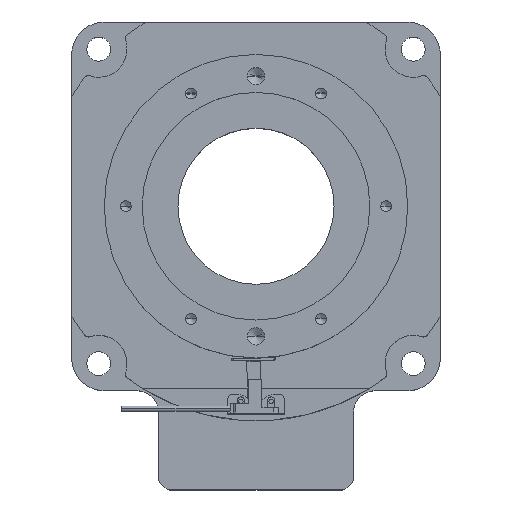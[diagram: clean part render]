
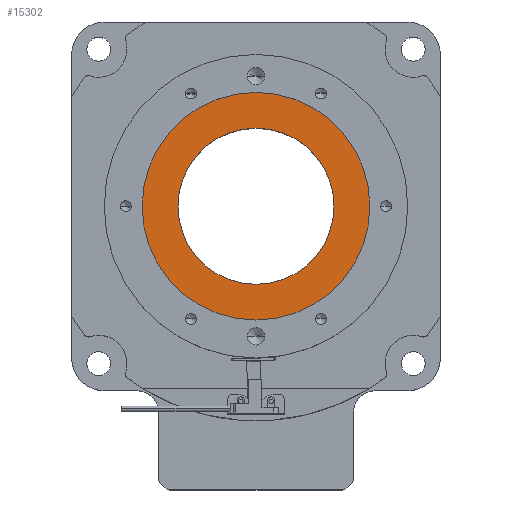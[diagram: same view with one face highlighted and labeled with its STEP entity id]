
A CAD part, top view. The second image highlights one B-rep face of the part: STEP entity #15302.
In plain terms, the highlighted planar face has unit normal (0, 0, 1).
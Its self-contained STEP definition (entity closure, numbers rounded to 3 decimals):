
#17 = EDGE_CURVE ( 'NONE', #11289, #5973, #19798, .T. ) ;
#1237 = DIRECTION ( 'NONE',  ( 1., 0., 0. ) ) ;
#2123 = ORIENTED_EDGE ( 'NONE', *, *, #5031, .F. ) ;
#3266 = EDGE_CURVE ( 'NONE', #7544, #16117, #7184, .T. ) ;
#3938 = FACE_BOUND ( 'NONE', #17875, .T. ) ;
#4738 = CIRCLE ( 'NONE', #12000, 52.5 ) ;
#4808 = CARTESIAN_POINT ( 'NONE',  ( -52.899, 36.475, 59.5 ) ) ;
#4916 = CIRCLE ( 'NONE', #16317, 36. ) ;
#5031 = EDGE_CURVE ( 'NONE', #16117, #7544, #4916, .T. ) ;
#5260 = CARTESIAN_POINT ( 'NONE',  ( 35.601, 36.475, 59.5 ) ) ;
#5504 = CARTESIAN_POINT ( 'NONE',  ( -16.899, 36.475, 59.5 ) ) ;
#5858 = PLANE ( 'NONE',  #19975 ) ;
#5973 = VERTEX_POINT ( 'NONE', #5260 ) ;
#7184 = CIRCLE ( 'NONE', #8912, 36. ) ;
#7309 = CARTESIAN_POINT ( 'NONE',  ( -16.899, 36.475, 59.5 ) ) ;
#7350 = AXIS2_PLACEMENT_3D ( 'NONE', #7309, #12282, #17254 ) ;
#7544 = VERTEX_POINT ( 'NONE', #4808 ) ;
#7602 = DIRECTION ( 'NONE',  ( 0., 0., 1. ) ) ;
#8436 = DIRECTION ( 'NONE',  ( 1., 0., 0. ) ) ;
#8912 = AXIS2_PLACEMENT_3D ( 'NONE', #5504, #19044, #15766 ) ;
#9574 = DIRECTION ( 'NONE',  ( 0., 0., 1. ) ) ;
#10071 = CARTESIAN_POINT ( 'NONE',  ( -16.899, 36.475, 59.5 ) ) ;
#11022 = CARTESIAN_POINT ( 'NONE',  ( -69.399, 36.475, 59.5 ) ) ;
#11289 = VERTEX_POINT ( 'NONE', #11022 ) ;
#12000 = AXIS2_PLACEMENT_3D ( 'NONE', #10071, #13406, #8436 ) ;
#12282 = DIRECTION ( 'NONE',  ( 0., 0., 1. ) ) ;
#12487 = CARTESIAN_POINT ( 'NONE',  ( -16.899, 36.475, 59.5 ) ) ;
#12503 = ORIENTED_EDGE ( 'NONE', *, *, #14742, .T. ) ;
#12795 = EDGE_LOOP ( 'NONE', ( #12503, #16735 ) ) ;
#13406 = DIRECTION ( 'NONE',  ( 0., 0., 1. ) ) ;
#14742 = EDGE_CURVE ( 'NONE', #5973, #11289, #4738, .T. ) ;
#15302 = ADVANCED_FACE ( 'NONE', ( #3938, #20700 ), #5858, .T. ) ;
#15375 = ORIENTED_EDGE ( 'NONE', *, *, #3266, .F. ) ;
#15766 = DIRECTION ( 'NONE',  ( 1., 0., 0. ) ) ;
#16117 = VERTEX_POINT ( 'NONE', #19773 ) ;
#16317 = AXIS2_PLACEMENT_3D ( 'NONE', #12487, #9574, #1237 ) ;
#16735 = ORIENTED_EDGE ( 'NONE', *, *, #17, .T. ) ;
#17024 = CARTESIAN_POINT ( 'NONE',  ( -16.899, 36.475, 59.5 ) ) ;
#17254 = DIRECTION ( 'NONE',  ( 1., 0., 0. ) ) ;
#17875 = EDGE_LOOP ( 'NONE', ( #2123, #15375 ) ) ;
#19044 = DIRECTION ( 'NONE',  ( 0., 0., 1. ) ) ;
#19087 = DIRECTION ( 'NONE',  ( 1., 0., 0. ) ) ;
#19773 = CARTESIAN_POINT ( 'NONE',  ( 19.101, 36.475, 59.5 ) ) ;
#19798 = CIRCLE ( 'NONE', #7350, 52.5 ) ;
#19975 = AXIS2_PLACEMENT_3D ( 'NONE', #17024, #7602, #19087 ) ;
#20700 = FACE_OUTER_BOUND ( 'NONE', #12795, .T. ) ;
